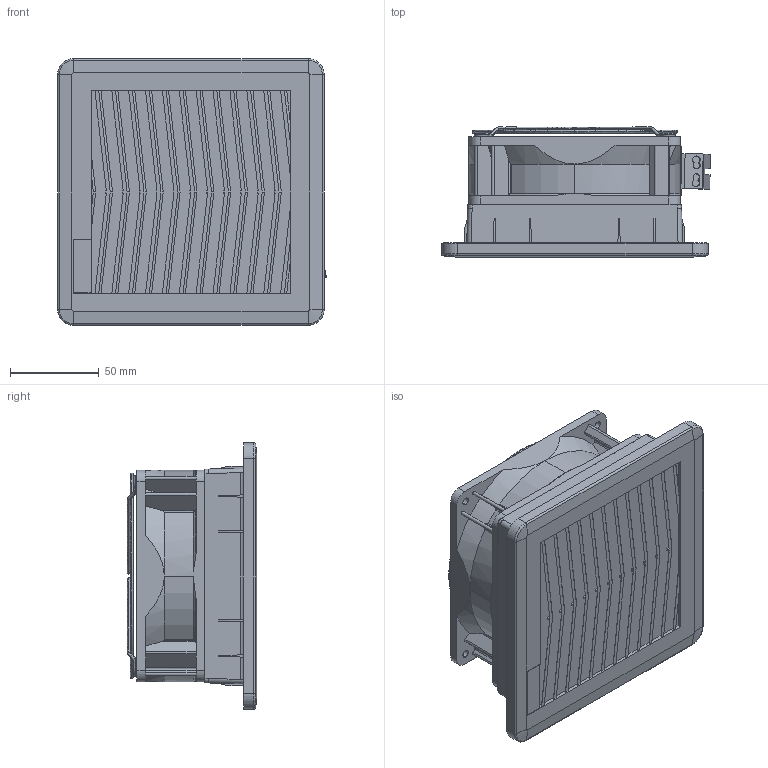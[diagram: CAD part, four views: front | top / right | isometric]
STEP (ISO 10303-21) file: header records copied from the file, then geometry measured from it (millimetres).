
FILE_DESCRIPTION (( 'STEP AP214' ), '1' );
FILE_NAME ('FF12DxxyN.STEP', '2023-09-14T13:21:38', ( '' ), ( '' ), 'SwSTEP 2.0', 'SolidWorks 2022', '' );
FILE_SCHEMA (( 'AUTOMOTIVE_DESIGN' ));
Length unit declared in the file: millimetre
Products named in the file (9): DT-00200DSI_Coperchio semplificato; DT-00350DSI_Base 124 semplificata; FF12DxxyN; DT-04082DSI_mostrina semplificata; DT-03892DSI_Semplificata; DT-02371DSI_Semplificato; LK_980-01-2_Semplificata; DT-03781DSI_Assieme semplificato; DT-01853DSI
Assembly tree (8 placements, depth 3):
  FF12DxxyN
    DT-02371DSI_Semplificato
    DT-03781DSI_Assieme semplificato
      DT-00350DSI_Base 124 semplificata
      DT-00200DSI_Coperchio semplificato
      DT-04082DSI_mostrina semplificata
    DT-01853DSI
    DT-03892DSI_Semplificata
    LK_980-01-2_Semplificata
Bounding box: 151.26 x 73 x 150 mm (x, y, z)
Volume: 595661.5 mm3; surface area: 182370.5 mm2
Topology: 6 solids, 9 shells, 596 faces, 1727 edges, 1136 vertices
Faces by surface type: plane 340, cylinder 111, bspline 111, cone 29, torus 5
Entity records: 36085 total; most frequent: CARTESIAN_POINT 18895, ORIENTED_EDGE 3448, DIRECTION 2420, EDGE_CURVE 1724, VERTEX_POINT 1136, LINE 1066, VECTOR 1066, AXIS2_PLACEMENT_3D 677
